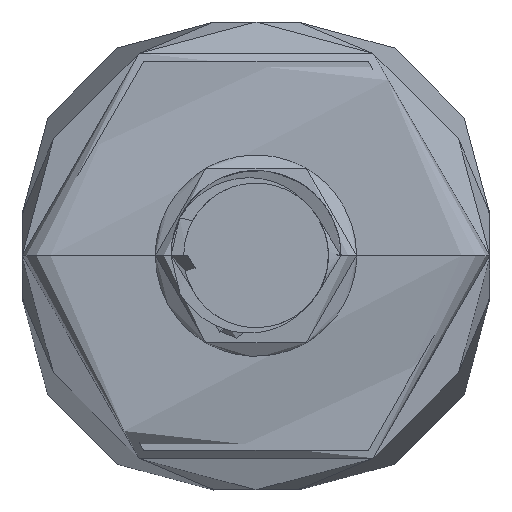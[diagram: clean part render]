
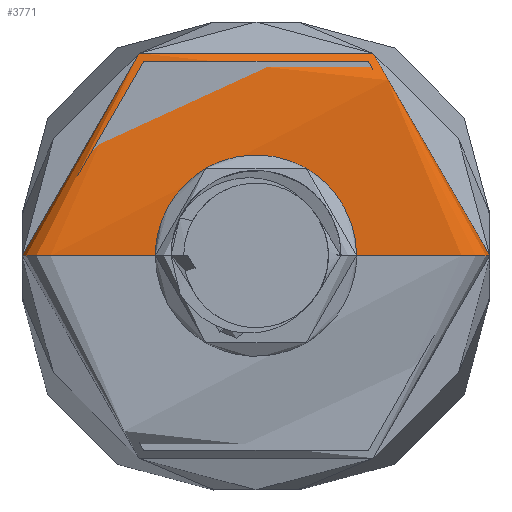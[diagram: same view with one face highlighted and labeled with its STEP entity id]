
A CAD part, top view. The second image highlights one B-rep face of the part: STEP entity #3771.
In plain terms, the highlighted free-form (B-spline) face has degree [3, 3] with [4, 4] control points.
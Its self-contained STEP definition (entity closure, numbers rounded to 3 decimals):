
#109 = EDGE_CURVE ( 'NONE', #5501, #1644, #4437, .T. ) ;
#301 = CARTESIAN_POINT ( 'NONE',  ( -16.5, 0., -0.9 ) ) ;
#461 = ORIENTED_EDGE ( 'NONE', *, *, #109, .F. ) ;
#468 = CARTESIAN_POINT ( 'NONE',  ( 14.5, 0., -0.9 ) ) ;
#568 = DIRECTION ( 'NONE',  ( 0., 0., -1. ) ) ;
#781 = VERTEX_POINT ( 'NONE', #1444 ) ;
#814 = CARTESIAN_POINT ( 'NONE',  ( -16.5, 33., -0.9 ) ) ;
#916 = EDGE_CURVE ( 'NONE', #5622, #1644, #1204, .T. ) ;
#1158 = EDGE_CURVE ( 'NONE', #781, #5622, #6690, .T. ) ;
#1204 = CIRCLE ( 'NONE', #3543, 2. ) ;
#1301 = CARTESIAN_POINT ( 'NONE',  ( 14.5, 0., 1.1 ) ) ;
#1305 = DIRECTION ( 'NONE',  ( -1., 0., 0. ) ) ;
#1444 = CARTESIAN_POINT ( 'NONE',  ( -14.5, 0., 1.1 ) ) ;
#1644 = VERTEX_POINT ( 'NONE', #2697 ) ;
#1921 = CARTESIAN_POINT ( 'NONE',  ( -14.5, 29., 1.1 ) ) ;
#2179 = FACE_OUTER_BOUND ( 'NONE', #4896, .T. ) ;
#2356 = CARTESIAN_POINT ( 'NONE',  ( -14.5, 0., -0.9 ) ) ;
#2414 = AXIS2_PLACEMENT_3D ( 'NONE', #2356, #2942, #1305 ) ;
#2479 = CARTESIAN_POINT ( 'NONE',  ( 16.5, 0., 0.272 ) ) ;
#2563 = CARTESIAN_POINT ( 'NONE',  ( -14.5, 29., 1.1 ) ) ;
#2697 = CARTESIAN_POINT ( 'NONE',  ( 16.5, 0., -0.9 ) ) ;
#2942 = DIRECTION ( 'NONE',  ( 0., -1., 0. ) ) ;
#2970 = CARTESIAN_POINT ( 'NONE',  ( 15.672, 0., 1.1 ) ) ;
#3082 = AXIS2_PLACEMENT_3D ( 'NONE', #5339, #568, #4816 ) ;
#3205 = ORIENTED_EDGE ( 'NONE', *, *, #4324, .F. ) ;
#3437 = CARTESIAN_POINT ( 'NONE',  ( -16.5, 33., 0.272 ) ) ;
#3543 = AXIS2_PLACEMENT_3D ( 'NONE', #468, #4677, #4751 ) ;
#3591 = ORIENTED_EDGE ( 'NONE', *, *, #916, .T. ) ;
#3771 = ADVANCED_FACE ( 'NONE', ( #2179 ), #4066, .T. ) ;
#3960 = CARTESIAN_POINT ( 'NONE',  ( -15.672, 31.343, 1.1 ) ) ;
#4066 =( BOUNDED_SURFACE ( )  B_SPLINE_SURFACE ( 3, 3, ( 
 ( #1301, #6676, #1921, #5041 ),
 ( #2970, #5106, #3960, #6736 ),
 ( #2479, #5596, #3437, #4481 ),
 ( #5657, #6705, #814, #301 ) ),
 .UNSPECIFIED., .F., .F., .F. ) 
 B_SPLINE_SURFACE_WITH_KNOTS ( ( 4, 4 ),
 ( 4, 4 ),
 ( 0., 1. ),
 ( 0., 1. ),
 .UNSPECIFIED. ) 
 GEOMETRIC_REPRESENTATION_ITEM ( )  RATIONAL_B_SPLINE_SURFACE ( (
 ( 1., 0.333, 0.333, 1.),
 ( 0.805, 0.268, 0.268, 0.805),
 ( 0.805, 0.268, 0.268, 0.805),
 ( 1., 0.333, 0.333, 1.) ) ) 
 REPRESENTATION_ITEM ( '' )  SURFACE ( )  );
#4144 = CARTESIAN_POINT ( 'NONE',  ( 14.5, 0., 1.1 ) ) ;
#4324 = EDGE_CURVE ( 'NONE', #781, #5501, #6651, .T. ) ;
#4437 = CIRCLE ( 'NONE', #3082, 16.5 ) ;
#4481 = CARTESIAN_POINT ( 'NONE',  ( -16.5, 0., 0.272 ) ) ;
#4677 = DIRECTION ( 'NONE',  ( 0., 1., 0. ) ) ;
#4735 = CARTESIAN_POINT ( 'NONE',  ( -14.5, 0., 1.1 ) ) ;
#4751 = DIRECTION ( 'NONE',  ( 1., 0., 0. ) ) ;
#4816 = DIRECTION ( 'NONE',  ( -1., 0., 0. ) ) ;
#4896 = EDGE_LOOP ( 'NONE', ( #3205, #6872, #3591, #461 ) ) ;
#5041 = CARTESIAN_POINT ( 'NONE',  ( -14.5, 0., 1.1 ) ) ;
#5106 = CARTESIAN_POINT ( 'NONE',  ( 15.672, 31.343, 1.1 ) ) ;
#5339 = CARTESIAN_POINT ( 'NONE',  ( 0., 0., -0.9 ) ) ;
#5351 = CARTESIAN_POINT ( 'NONE',  ( -16.5, 0., -0.9 ) ) ;
#5501 = VERTEX_POINT ( 'NONE', #5351 ) ;
#5596 = CARTESIAN_POINT ( 'NONE',  ( 16.5, 33., 0.272 ) ) ;
#5622 = VERTEX_POINT ( 'NONE', #6702 ) ;
#5657 = CARTESIAN_POINT ( 'NONE',  ( 16.5, 0., -0.9 ) ) ;
#6651 = CIRCLE ( 'NONE', #2414, 2. ) ;
#6676 = CARTESIAN_POINT ( 'NONE',  ( 14.5, 29., 1.1 ) ) ;
#6690 =( BOUNDED_CURVE ( )  B_SPLINE_CURVE ( 3, ( #4735, #2563, #6792, #4144 ),
 .UNSPECIFIED., .F., .T. ) 
 B_SPLINE_CURVE_WITH_KNOTS ( ( 4, 4 ),
 ( 0.5, 1. ),
 .UNSPECIFIED. ) 
 CURVE ( )  GEOMETRIC_REPRESENTATION_ITEM ( )  RATIONAL_B_SPLINE_CURVE ( ( 1., 0.333, 0.333, 1. ) ) 
 REPRESENTATION_ITEM ( '' )  );
#6702 = CARTESIAN_POINT ( 'NONE',  ( 14.5, 0., 1.1 ) ) ;
#6705 = CARTESIAN_POINT ( 'NONE',  ( 16.5, 33., -0.9 ) ) ;
#6736 = CARTESIAN_POINT ( 'NONE',  ( -15.672, 0., 1.1 ) ) ;
#6792 = CARTESIAN_POINT ( 'NONE',  ( 14.5, 29., 1.1 ) ) ;
#6872 = ORIENTED_EDGE ( 'NONE', *, *, #1158, .T. ) ;
